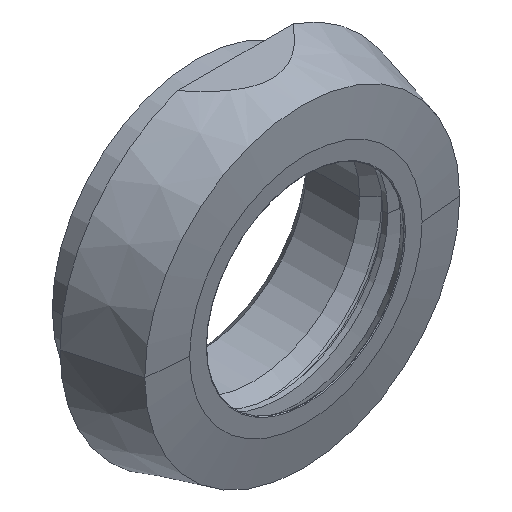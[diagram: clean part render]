
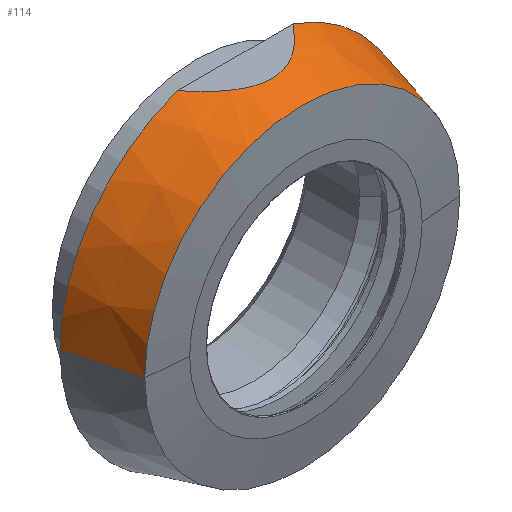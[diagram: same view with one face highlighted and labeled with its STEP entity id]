
A CAD part, isometric view. The second image highlights one B-rep face of the part: STEP entity #114.
In plain terms, the highlighted conical face has half-angle 15 degrees and reference radius 23.629 mm.
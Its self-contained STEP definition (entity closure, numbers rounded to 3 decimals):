
#114 = ADVANCED_FACE( '', ( #201 ), #202, .T. );
#201 = FACE_OUTER_BOUND( '', #292, .T. );
#202 = CONICAL_SURFACE( '', #293, 23.629, 0.262 );
#292 = EDGE_LOOP( '', ( #604, #605, #606, #607, #608, #609 ) );
#293 = AXIS2_PLACEMENT_3D( '', #610, #611, #612 );
#604 = ORIENTED_EDGE( '', *, *, #657, .T. );
#605 = ORIENTED_EDGE( '', *, *, #715, .F. );
#606 = ORIENTED_EDGE( '', *, *, #712, .T. );
#607 = ORIENTED_EDGE( '', *, *, #716, .F. );
#608 = ORIENTED_EDGE( '', *, *, #659, .T. );
#609 = ORIENTED_EDGE( '', *, *, #733, .T. );
#610 = CARTESIAN_POINT( '', ( 0., 5.256, 0. ) );
#611 = DIRECTION( '', ( 0., 1., 0. ) );
#612 = DIRECTION( '', ( 1., 0., 0. ) );
#657 = EDGE_CURVE( '', #777, #778, #779, .T. );
#659 = EDGE_CURVE( '', #782, #780, #783, .T. );
#712 = EDGE_CURVE( '', #875, #876, #877, .T. );
#715 = EDGE_CURVE( '', #875, #778, #880, .T. );
#716 = EDGE_CURVE( '', #782, #876, #881, .T. );
#733 = EDGE_CURVE( '', #780, #777, #899, .T. );
#777 = VERTEX_POINT( '', #947 );
#778 = VERTEX_POINT( '', #948 );
#779 = LINE( '', #949, #950 );
#780 = VERTEX_POINT( '', #951 );
#782 = VERTEX_POINT( '', #953 );
#783 = LINE( '', #954, #955 );
#875 = VERTEX_POINT( '', #1074 );
#876 = VERTEX_POINT( '', #1075 );
#877 = ( B_SPLINE_CURVE( 2, ( #1077, #1078, #1079 ), .UNSPECIFIED., .F., .F. )B_SPLINE_CURVE_WITH_KNOTS( ( 3, 3 ), ( 0., 19.5 ), .UNSPECIFIED. )RATIONAL_B_SPLINE_CURVE( ( 1., 1.06, 1. ) )BOUNDED_CURVE(  )REPRESENTATION_ITEM( '' )GEOMETRIC_REPRESENTATION_ITEM(  )CURVE(  ) );
#880 = CIRCLE( '', #1090, 24.9 );
#881 = CIRCLE( '', #1091, 24.9 );
#899 = CIRCLE( '', #1109, 22.358 );
#947 = CARTESIAN_POINT( '', ( 22.358, 0.512, 0. ) );
#948 = CARTESIAN_POINT( '', ( 24.9, 10., 0. ) );
#949 = CARTESIAN_POINT( '', ( 23.629, 5.256, 0. ) );
#950 = VECTOR( '', #1173, 1. );
#951 = CARTESIAN_POINT( '', ( -22.358, 0.512, 0. ) );
#953 = CARTESIAN_POINT( '', ( -24.9, 10., 0. ) );
#954 = CARTESIAN_POINT( '', ( -23.629, 5.256, 0. ) );
#955 = VECTOR( '', #1177, 1. );
#1074 = CARTESIAN_POINT( '', ( 8.232, 10., 23.5 ) );
#1075 = CARTESIAN_POINT( '', ( -8.232, 10., 23.5 ) );
#1077 = CARTESIAN_POINT( '', ( 8.232, 10., 23.5 ) );
#1078 = CARTESIAN_POINT( '', ( 0., -0.156, 23.5 ) );
#1079 = CARTESIAN_POINT( '', ( -8.232, 10., 23.5 ) );
#1090 = AXIS2_PLACEMENT_3D( '', #1297, #1298, #1299 );
#1091 = AXIS2_PLACEMENT_3D( '', #1300, #1301, #1302 );
#1109 = AXIS2_PLACEMENT_3D( '', #1351, #1352, #1353 );
#1173 = DIRECTION( '', ( 0.259, 0.966, 0. ) );
#1177 = DIRECTION( '', ( 0.259, -0.966, 0. ) );
#1297 = CARTESIAN_POINT( '', ( 0., 10., 0. ) );
#1298 = DIRECTION( '', ( 0., 1., 0. ) );
#1299 = DIRECTION( '', ( 1., 0., 0. ) );
#1300 = CARTESIAN_POINT( '', ( 0., 10., 0. ) );
#1301 = DIRECTION( '', ( 0., 1., 0. ) );
#1302 = DIRECTION( '', ( 1., 0., 0. ) );
#1351 = CARTESIAN_POINT( '', ( 0., 0.512, 0. ) );
#1352 = DIRECTION( '', ( 0., 1., 0. ) );
#1353 = DIRECTION( '', ( 1., 0., 0. ) );
